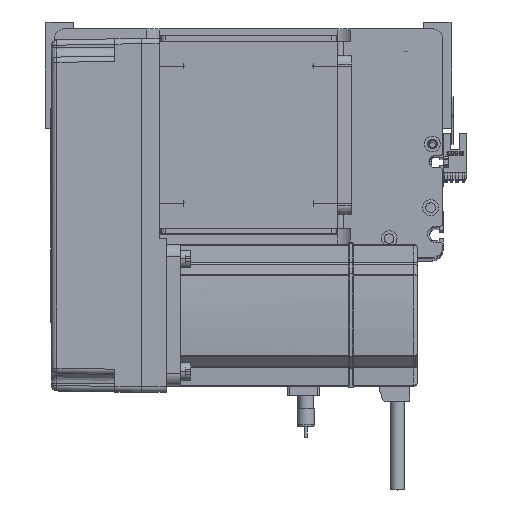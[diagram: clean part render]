
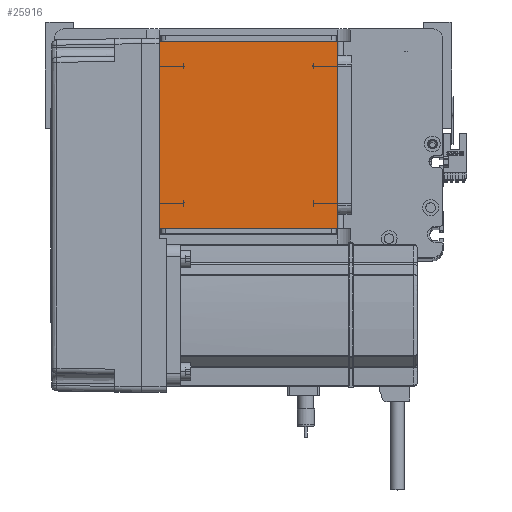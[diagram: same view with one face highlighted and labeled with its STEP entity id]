
A CAD part, top view. The second image highlights one B-rep face of the part: STEP entity #25916.
In plain terms, the highlighted planar face has unit normal (0, 0, 1).
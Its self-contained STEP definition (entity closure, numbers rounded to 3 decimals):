
#864 = EDGE_CURVE ( 'NONE', #29352, #25756, #27041, .T. ) ;
#938 = CARTESIAN_POINT ( 'NONE',  ( -50.5, 122., 115. ) ) ;
#2633 = FACE_OUTER_BOUND ( 'NONE', #33309, .T. ) ;
#4696 = CARTESIAN_POINT ( 'NONE',  ( -50.5, 16., 115. ) ) ;
#7625 = ORIENTED_EDGE ( 'NONE', *, *, #42868, .T. ) ;
#8233 = AXIS2_PLACEMENT_3D ( 'NONE', #45878, #26506, #14169 ) ;
#9619 = CARTESIAN_POINT ( 'NONE',  ( 50.5, 122., 115. ) ) ;
#11879 = CARTESIAN_POINT ( 'NONE',  ( 50.5, 122., 115. ) ) ;
#14169 = DIRECTION ( 'NONE',  ( 1., 0., 0. ) ) ;
#21435 = VECTOR ( 'NONE', #32007, 1000. ) ;
#21747 = DIRECTION ( 'NONE',  ( -1., 0., 0. ) ) ;
#21951 = ORIENTED_EDGE ( 'NONE', *, *, #45623, .T. ) ;
#22901 = DIRECTION ( 'NONE',  ( 1., 0., 0. ) ) ;
#23474 = ORIENTED_EDGE ( 'NONE', *, *, #864, .T. ) ;
#23662 = LINE ( 'NONE', #34211, #38950 ) ;
#24119 = VECTOR ( 'NONE', #21747, 1000. ) ;
#25560 = CARTESIAN_POINT ( 'NONE',  ( 50.5, 16., 115. ) ) ;
#25756 = VERTEX_POINT ( 'NONE', #4696 ) ;
#25916 = ADVANCED_FACE ( 'NONE', ( #2633 ), #34057, .T. ) ;
#26506 = DIRECTION ( 'NONE',  ( 0., 0., 1. ) ) ;
#27041 = LINE ( 'NONE', #38458, #49081 ) ;
#29352 = VERTEX_POINT ( 'NONE', #938 ) ;
#30624 = DIRECTION ( 'NONE',  ( 0., -1., 0. ) ) ;
#30651 = LINE ( 'NONE', #11879, #21435 ) ;
#31939 = VERTEX_POINT ( 'NONE', #25560 ) ;
#32007 = DIRECTION ( 'NONE',  ( 0., 1., 0. ) ) ;
#32634 = EDGE_CURVE ( 'NONE', #31939, #33409, #30651, .T. ) ;
#33309 = EDGE_LOOP ( 'NONE', ( #23474, #7625, #44084, #21951 ) ) ;
#33409 = VERTEX_POINT ( 'NONE', #9619 ) ;
#34057 = PLANE ( 'NONE',  #8233 ) ;
#34211 = CARTESIAN_POINT ( 'NONE',  ( -50.5, 16., 115. ) ) ;
#34516 = LINE ( 'NONE', #37348, #24119 ) ;
#37348 = CARTESIAN_POINT ( 'NONE',  ( -50.5, 122., 115. ) ) ;
#38458 = CARTESIAN_POINT ( 'NONE',  ( -50.5, 122., 115. ) ) ;
#38950 = VECTOR ( 'NONE', #22901, 1000. ) ;
#42868 = EDGE_CURVE ( 'NONE', #25756, #31939, #23662, .T. ) ;
#44084 = ORIENTED_EDGE ( 'NONE', *, *, #32634, .T. ) ;
#45623 = EDGE_CURVE ( 'NONE', #33409, #29352, #34516, .T. ) ;
#45878 = CARTESIAN_POINT ( 'NONE',  ( 0., 0., 115. ) ) ;
#49081 = VECTOR ( 'NONE', #30624, 1000. ) ;
